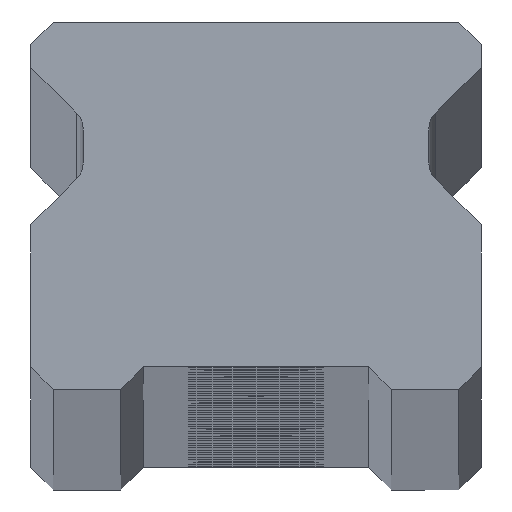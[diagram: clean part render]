
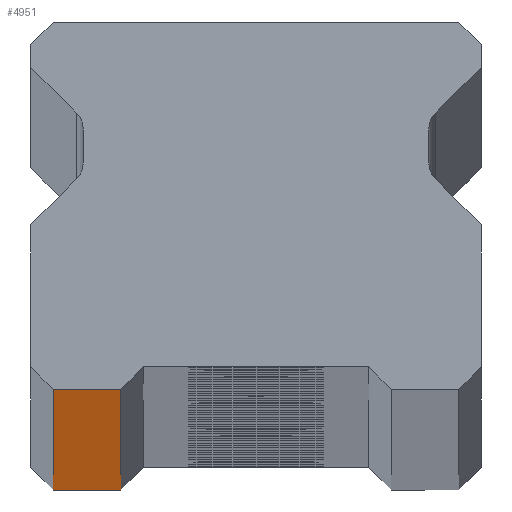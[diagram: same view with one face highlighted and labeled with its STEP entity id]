
A CAD part, top view. The second image highlights one B-rep face of the part: STEP entity #4951.
In plain terms, the highlighted planar face has unit normal (0, -1, 0).
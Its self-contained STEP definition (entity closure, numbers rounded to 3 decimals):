
#189 = DIRECTION ( 'NONE',  ( 0., 1., 0. ) ) ;
#206 = EDGE_LOOP ( 'NONE', ( #3181, #5867, #3323, #2477 ) ) ;
#211 = LINE ( 'NONE', #1475, #7377 ) ;
#481 = EDGE_CURVE ( 'NONE', #2156, #6470, #2905, .T. ) ;
#524 = EDGE_CURVE ( 'NONE', #5647, #6055, #7345, .T. ) ;
#840 = DIRECTION ( 'NONE',  ( 0., 0., -1. ) ) ;
#1271 = CARTESIAN_POINT ( 'NONE',  ( 10., 0., 1280. ) ) ;
#1336 = EDGE_CURVE ( 'NONE', #5647, #2156, #1518, .T. ) ;
#1475 = CARTESIAN_POINT ( 'NONE',  ( -6., 0., -1280. ) ) ;
#1518 = LINE ( 'NONE', #4888, #4441 ) ;
#1718 = CARTESIAN_POINT ( 'NONE',  ( 10., 0., -1280. ) ) ;
#1893 = CARTESIAN_POINT ( 'NONE',  ( 10., 0., 1280. ) ) ;
#2023 = DIRECTION ( 'NONE',  ( 0., 0., 1. ) ) ;
#2156 = VERTEX_POINT ( 'NONE', #5893 ) ;
#2426 = CARTESIAN_POINT ( 'NONE',  ( -6., 0., -1280. ) ) ;
#2477 = ORIENTED_EDGE ( 'NONE', *, *, #1336, .T. ) ;
#2905 = LINE ( 'NONE', #1718, #6518 ) ;
#3181 = ORIENTED_EDGE ( 'NONE', *, *, #481, .T. ) ;
#3323 = ORIENTED_EDGE ( 'NONE', *, *, #524, .F. ) ;
#3494 = DIRECTION ( 'NONE',  ( 1., 0., 0. ) ) ;
#3568 = DIRECTION ( 'NONE',  ( -1., 0., 0. ) ) ;
#3595 = AXIS2_PLACEMENT_3D ( 'NONE', #1893, #189, #3568 ) ;
#4441 = VECTOR ( 'NONE', #840, 1000. ) ;
#4795 = PLANE ( 'NONE',  #3595 ) ;
#4823 = FACE_OUTER_BOUND ( 'NONE', #206, .T. ) ;
#4888 = CARTESIAN_POINT ( 'NONE',  ( -9., 0., 1280. ) ) ;
#4951 = ADVANCED_FACE ( 'NONE', ( #4823 ), #4795, .F. ) ;
#5647 = VERTEX_POINT ( 'NONE', #6155 ) ;
#5867 = ORIENTED_EDGE ( 'NONE', *, *, #6931, .T. ) ;
#5893 = CARTESIAN_POINT ( 'NONE',  ( -9., 0., -1280. ) ) ;
#5931 = DIRECTION ( 'NONE',  ( 1., 0., 0. ) ) ;
#6055 = VERTEX_POINT ( 'NONE', #6563 ) ;
#6155 = CARTESIAN_POINT ( 'NONE',  ( -9., 0., 1280. ) ) ;
#6470 = VERTEX_POINT ( 'NONE', #2426 ) ;
#6518 = VECTOR ( 'NONE', #3494, 1000. ) ;
#6563 = CARTESIAN_POINT ( 'NONE',  ( -6., 0., 1280. ) ) ;
#6931 = EDGE_CURVE ( 'NONE', #6470, #6055, #211, .T. ) ;
#7345 = LINE ( 'NONE', #1271, #7435 ) ;
#7377 = VECTOR ( 'NONE', #2023, 1000. ) ;
#7435 = VECTOR ( 'NONE', #5931, 1000. ) ;
